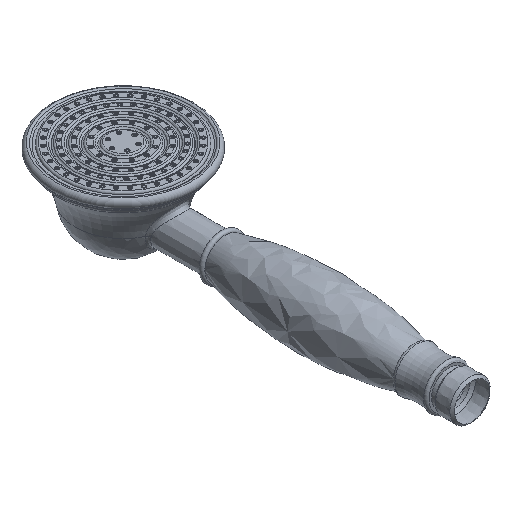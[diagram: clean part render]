
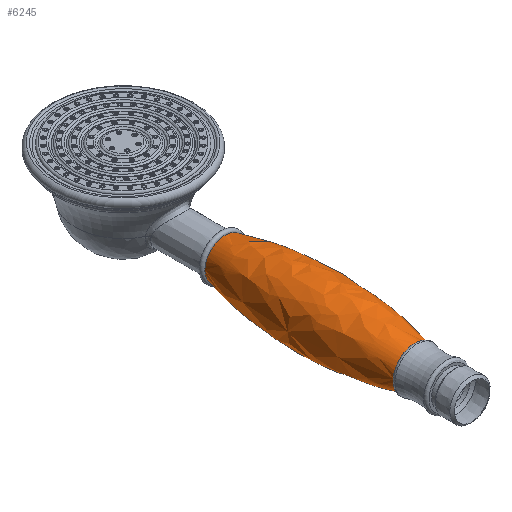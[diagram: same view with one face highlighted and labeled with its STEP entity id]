
A CAD part, isometric view. The second image highlights one B-rep face of the part: STEP entity #6245.
In plain terms, the highlighted free-form (B-spline) face has degree [2, 2] with [3, 9] control points.
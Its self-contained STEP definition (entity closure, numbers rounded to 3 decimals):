
#657=FACE_OUTER_BOUND('',#1124,.T.);
#1124=EDGE_LOOP('',(#4469,#4470,#4471,#4472));
#2207=CIRCLE('',#6747,10.28);
#2208=CIRCLE('',#6748,193.25);
#2209=CIRCLE('',#6749,10.378);
#2904=VERTEX_POINT('',#11062);
#2905=VERTEX_POINT('',#11092);
#3529=EDGE_CURVE('',#2904,#2904,#2207,.T.);
#3530=EDGE_CURVE('',#2904,#2905,#2208,.T.);
#3531=EDGE_CURVE('',#2905,#2905,#2209,.T.);
#4469=ORIENTED_EDGE('',*,*,#3529,.F.);
#4470=ORIENTED_EDGE('',*,*,#3530,.T.);
#4471=ORIENTED_EDGE('',*,*,#3531,.T.);
#4472=ORIENTED_EDGE('',*,*,#3530,.F.);
#6232=(
BOUNDED_SURFACE()
B_SPLINE_SURFACE(2,2,((#11065,#11066,#11067,#11068,#11069,#11070,#11071,
#11072,#11073),(#11074,#11075,#11076,#11077,#11078,#11079,#11080,#11081,
#11082),(#11083,#11084,#11085,#11086,#11087,#11088,#11089,#11090,#11091)),
 .UNSPECIFIED.,.F.,.T.,.F.)
B_SPLINE_SURFACE_WITH_KNOTS((3,3),(3,2,2,2,3),(-0.254,0.256),
(-3.142,-1.571,0.,1.571,3.142),
 .UNSPECIFIED.)
GEOMETRIC_REPRESENTATION_ITEM()
RATIONAL_B_SPLINE_SURFACE(((1.,0.707,1.,0.707,1.,
0.707,1.,0.707,1.),(0.968,0.684,
0.968,0.684,0.968,0.684,0.968,
0.684,0.968),(1.,0.707,1.,0.707,
1.,0.707,1.,0.707,1.)))
REPRESENTATION_ITEM('')
SURFACE()
);
#6245=ADVANCED_FACE('',(#657),#6232,.F.);
#6747=AXIS2_PLACEMENT_3D('',#11064,#7877,#7878);
#6748=AXIS2_PLACEMENT_3D('',#11093,#7879,#7880);
#6749=AXIS2_PLACEMENT_3D('',#11094,#7881,#7882);
#7877=DIRECTION('center_axis',(-0.001,-1.,
0.));
#7878=DIRECTION('ref_axis',(0.,0.,-1.));
#7879=DIRECTION('center_axis',(0.,0.,
-1.));
#7880=DIRECTION('ref_axis',(-1.,0.001,0.));
#7881=DIRECTION('center_axis',(-0.001,-1.,
0.));
#7882=DIRECTION('ref_axis',(0.,0.,-1.));
#11062=CARTESIAN_POINT('',(-10.25,30.,0.));
#11064=CARTESIAN_POINT('Origin',(0.03,29.99,0.));
#11065=CARTESIAN_POINT('Ctrl Pts',(-10.25,127.5,0.));
#11066=CARTESIAN_POINT('Ctrl Pts',(-10.25,127.5,-10.378));
#11067=CARTESIAN_POINT('Ctrl Pts',(0.128,127.49,-10.378));
#11068=CARTESIAN_POINT('Ctrl Pts',(10.506,127.479,-10.378));
#11069=CARTESIAN_POINT('Ctrl Pts',(10.506,127.479,0.));
#11070=CARTESIAN_POINT('Ctrl Pts',(10.506,127.479,10.378));
#11071=CARTESIAN_POINT('Ctrl Pts',(0.128,127.49,10.378));
#11072=CARTESIAN_POINT('Ctrl Pts',(-10.25,127.5,10.378));
#11073=CARTESIAN_POINT('Ctrl Pts',(-10.25,127.5,0.));
#11074=CARTESIAN_POINT('Ctrl Pts',(-22.959,78.75,0.));
#11075=CARTESIAN_POINT('Ctrl Pts',(-22.959,78.75,-23.038));
#11076=CARTESIAN_POINT('Ctrl Pts',(0.079,78.727,
-23.038));
#11077=CARTESIAN_POINT('Ctrl Pts',(23.117,78.704,-23.038));
#11078=CARTESIAN_POINT('Ctrl Pts',(23.117,78.704,0.));
#11079=CARTESIAN_POINT('Ctrl Pts',(23.117,78.704,23.038));
#11080=CARTESIAN_POINT('Ctrl Pts',(0.079,78.727,
23.038));
#11081=CARTESIAN_POINT('Ctrl Pts',(-22.959,78.75,23.038));
#11082=CARTESIAN_POINT('Ctrl Pts',(-22.959,78.75,0.));
#11083=CARTESIAN_POINT('Ctrl Pts',(-10.25,30.,0.));
#11084=CARTESIAN_POINT('Ctrl Pts',(-10.25,30.,-10.28));
#11085=CARTESIAN_POINT('Ctrl Pts',(0.03,29.99,
-10.28));
#11086=CARTESIAN_POINT('Ctrl Pts',(10.31,29.979,-10.28));
#11087=CARTESIAN_POINT('Ctrl Pts',(10.31,29.979,0.));
#11088=CARTESIAN_POINT('Ctrl Pts',(10.31,29.979,10.28));
#11089=CARTESIAN_POINT('Ctrl Pts',(0.03,29.99,
10.28));
#11090=CARTESIAN_POINT('Ctrl Pts',(-10.25,30.,10.28));
#11091=CARTESIAN_POINT('Ctrl Pts',(-10.25,30.,0.));
#11092=CARTESIAN_POINT('',(-10.25,127.5,0.));
#11093=CARTESIAN_POINT('Origin',(176.75,78.75,0.));
#11094=CARTESIAN_POINT('Origin',(0.128,127.49,0.));
